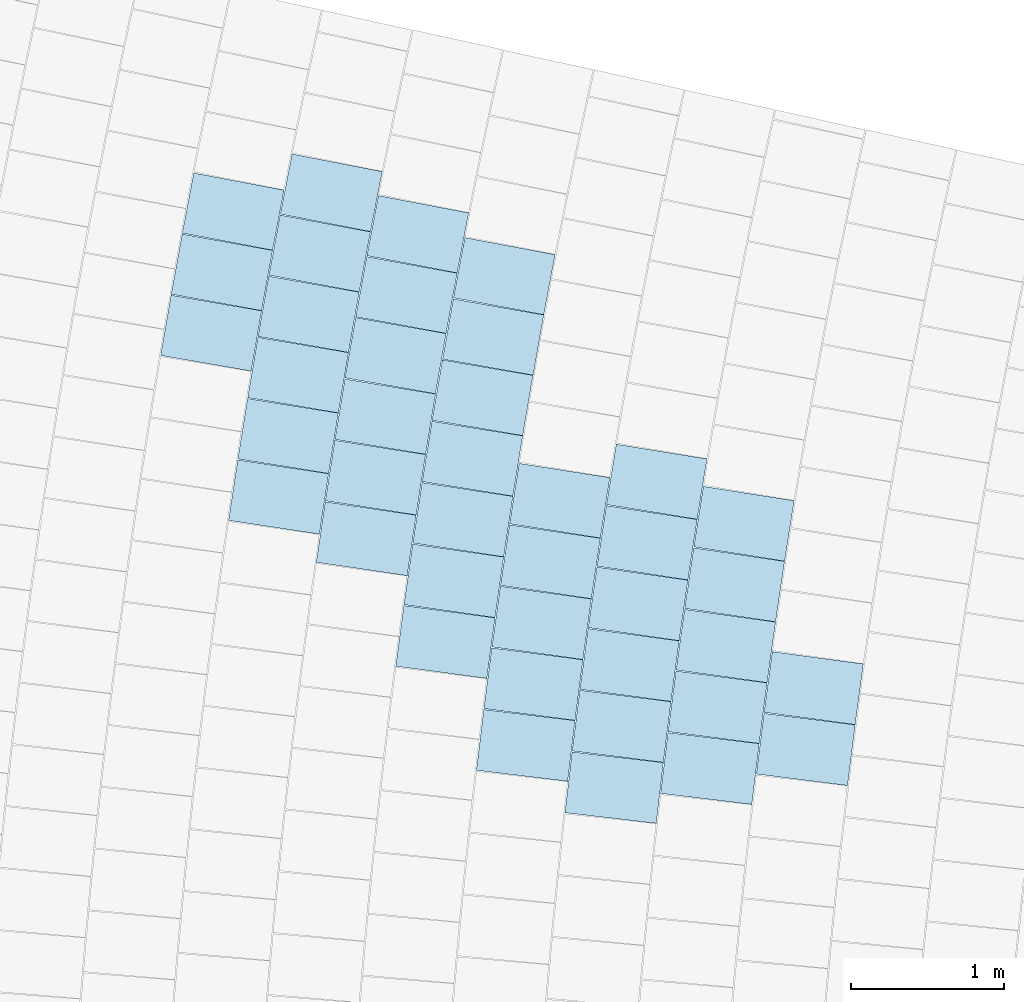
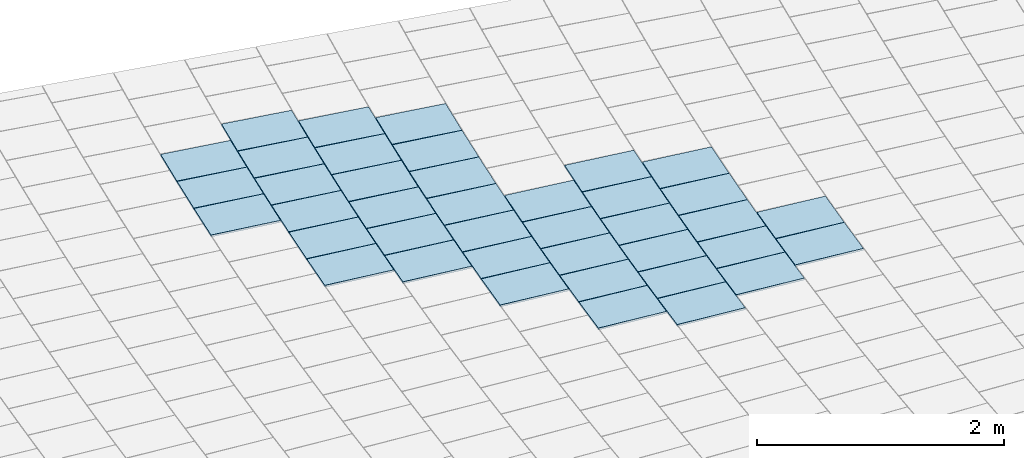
# One storey, part 91 of 438: 40 slabs.
"""IFC2X3 building model written with IfcOpenShell, lengths in millimetres."""

from ifc_helpers import new_model, entity, si_unit, converted_unit, derived_unit, direction, frame, frame_2d, origin, place, context, subcontext, project, spatial, polyline, rectangle, outline, extrude, material, layer, layer_set, layer_usage, type_object, element, save


model = new_model("IFC2X3")

# Units and contexts
model_context = context("Model", 3, precision=0.01, world=origin(), true_north=direction((6.123031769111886e-17, 1.0)))
body_context = subcontext(model_context, "Body", "Model", "MODEL_VIEW")
ifc_project = project(units=[si_unit("LENGTHUNIT", "METRE", prefix="MILLI"), si_unit("AREAUNIT", "SQUARE_METRE"), si_unit("VOLUMEUNIT", "CUBIC_METRE"), converted_unit("PLANEANGLEUNIT", "DEGREE", entity("IfcRatioMeasure", 0.017453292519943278), si_unit("PLANEANGLEUNIT", "RADIAN"), dimensions=[0, 0, 0, 0, 0, 0, 0]), si_unit("MASSUNIT", "GRAM", prefix="KILO"), derived_unit("MASSDENSITYUNIT", [(si_unit("MASSUNIT", "GRAM", prefix="KILO"), 1), (si_unit("LENGTHUNIT", "METRE"), -3)]), derived_unit("MOMENTOFINERTIAUNIT", [(si_unit("LENGTHUNIT", "METRE"), 4)]), si_unit("TIMEUNIT", "SECOND"), si_unit("FREQUENCYUNIT", "HERTZ"), si_unit("THERMODYNAMICTEMPERATUREUNIT", "DEGREE_CELSIUS"), derived_unit("THERMALTRANSMITTANCEUNIT", [(si_unit("MASSUNIT", "GRAM", prefix="KILO"), 1), (si_unit("THERMODYNAMICTEMPERATUREUNIT", "KELVIN"), -1), (si_unit("TIMEUNIT", "SECOND"), -3)]), derived_unit("THERMALCONDUCTANCEUNIT", [(si_unit("MASSUNIT", "GRAM", prefix="KILO"), 1), (si_unit("LENGTHUNIT", "METRE"), 1), (si_unit("THERMODYNAMICTEMPERATUREUNIT", "KELVIN"), -1), (si_unit("TIMEUNIT", "SECOND"), -3)]), derived_unit("VOLUMETRICFLOWRATEUNIT", [(si_unit("LENGTHUNIT", "METRE"), 3), (si_unit("TIMEUNIT", "SECOND"), -1)]), derived_unit("MASSFLOWRATEUNIT", [(si_unit("MASSUNIT", "GRAM", prefix="KILO"), 1), (si_unit("TIMEUNIT", "SECOND"), -1)]), derived_unit("ROTATIONALFREQUENCYUNIT", [(si_unit("TIMEUNIT", "SECOND"), -1)]), si_unit("ELECTRICCURRENTUNIT", "AMPERE"), si_unit("ELECTRICVOLTAGEUNIT", "VOLT"), si_unit("POWERUNIT", "WATT"), converted_unit("FORCEUNIT", "KIP", entity("IfcRatioMeasure", 2.088543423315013e-05), si_unit("FORCEUNIT", "NEWTON"), dimensions=[1, 1, -2, 0, 0, 0, 0]), si_unit("ILLUMINANCEUNIT", "LUX"), si_unit("LUMINOUSFLUXUNIT", "LUMEN"), si_unit("LUMINOUSINTENSITYUNIT", "CANDELA"), derived_unit("USERDEFINED", [(si_unit("MASSUNIT", "GRAM", prefix="KILO"), -1), (si_unit("LENGTHUNIT", "METRE"), -2), (si_unit("TIMEUNIT", "SECOND"), 3), (si_unit("LUMINOUSFLUXUNIT", "LUMEN"), 1)]), derived_unit("USERDEFINED", [(si_unit("MASSUNIT", "GRAM", prefix="KILO"), 1), (si_unit("LENGTHUNIT", "METRE"), 3), (si_unit("TIMEUNIT", "SECOND"), -3), (si_unit("ELECTRICCURRENTUNIT", "AMPERE"), -2)]), derived_unit("USERDEFINED", [(si_unit("LENGTHUNIT", "METRE"), 2), (si_unit("TIMEUNIT", "SECOND"), -2)]), derived_unit("SOUNDPOWERUNIT", [(si_unit("MASSUNIT", "GRAM", prefix="KILO"), 1), (si_unit("LENGTHUNIT", "METRE"), 2), (si_unit("TIMEUNIT", "SECOND"), -3)]), derived_unit("SOUNDPRESSUREUNIT", [(si_unit("MASSUNIT", "GRAM", prefix="KILO"), 1), (si_unit("LENGTHUNIT", "METRE"), -1), (si_unit("TIMEUNIT", "SECOND"), -2)]), derived_unit("LINEARVELOCITYUNIT", [(si_unit("LENGTHUNIT", "METRE"), 1), (si_unit("TIMEUNIT", "SECOND"), -1)]), si_unit("PRESSUREUNIT", "PASCAL"), derived_unit("USERDEFINED", [(si_unit("LENGTHUNIT", "METRE"), -2), (si_unit("MASSUNIT", "GRAM", prefix="KILO"), 1), (si_unit("TIMEUNIT", "SECOND"), -2)]), derived_unit("LINEARFORCEUNIT", [(si_unit("MASSUNIT", "GRAM", prefix="KILO"), 1), (si_unit("LENGTHUNIT", "METRE"), 1), (si_unit("TIMEUNIT", "SECOND"), -2), (si_unit("LENGTHUNIT", "METRE"), -1)]), derived_unit("PLANARFORCEUNIT", [(si_unit("MASSUNIT", "GRAM", prefix="KILO"), 1), (si_unit("LENGTHUNIT", "METRE"), 1), (si_unit("TIMEUNIT", "SECOND"), -2), (si_unit("LENGTHUNIT", "METRE"), -2)]), derived_unit("SPECIFICHEATCAPACITYUNIT", [(si_unit("LENGTHUNIT", "METRE"), 2), (si_unit("TIMEUNIT", "SECOND"), -2), (si_unit("THERMODYNAMICTEMPERATUREUNIT", "KELVIN"), -1)]), derived_unit("VAPORPERMEABILITYUNIT", [(si_unit("TIMEUNIT", "SECOND"), 1), (si_unit("LENGTHUNIT", "METRE"), -1)]), derived_unit("DYNAMICVISCOSITYUNIT", [(si_unit("MASSUNIT", "GRAM", prefix="KILO"), 1), (si_unit("LENGTHUNIT", "METRE"), -1), (si_unit("TIMEUNIT", "SECOND"), -1)]), derived_unit("THERMALEXPANSIONCOEFFICIENTUNIT", [(si_unit("THERMODYNAMICTEMPERATUREUNIT", "KELVIN"), -1)])], contexts=[model_context])

# Site, building, storey
site_placement = place(None, frame((0.0, 0.0, 0.0), z_axis=(0.0, 0.0, 1.0), x_axis=(0.8191520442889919, 0.5735764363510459, 0.0)))
site = spatial("IfcSite", under=ifc_project, at=site_placement, Name="Default", CompositionType="ELEMENT")
building_placement = place(site_placement, origin())
building = spatial("IfcBuilding", under=site, at=building_placement, CompositionType="ELEMENT")
storey_placement = place(building_placement, origin())
storey = spatial("IfcBuildingStorey", under=building, at=storey_placement, Name="PLAN", CompositionType="ELEMENT", Elevation=0.0)

# Slabs
ifc_material = material(Name="Paint-01")
ifc_layer = layer(ifc_material, 20.00000000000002)
ifc_layer_set = layer_set([ifc_layer], Name="Floor:Slab-179:1000")
ifc_layer_usage = layer_usage(ifc_layer_set, "AXIS3", "POSITIVE", 0.0)
slab_type = type_object("IfcSlabType", Name="Floor:Slab-179:1000", PredefinedType="FLOOR", material=ifc_layer_set)
slab_1_placement = place(storey_placement, origin())
element("IfcSlab", 1, at=slab_1_placement, inside=storey, type_object=slab_type, material=ifc_layer_usage, Name="Floor:Slab-179:1000", ObjectType="Floor:Slab-179:1000", PredefinedType="FLOOR", context=body_context, shape_type="SweptSolid", body=[
    extrude(outline(polyline([(-300.0, -200.00000294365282), (299.99999762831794, -200.0000029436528), (300.0, 200.00000294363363), (-299.9999976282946, 200.00000294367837), (-300.0, -200.00000294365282)])), frame((-73016.58268910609, -38084.738255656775, 520.0), z_axis=(0.0, 0.0, -1.0), x_axis=(0.7383574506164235, -0.6744095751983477, 0.0)), (0.0, 0.0, 1.0), 20.000000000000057),
])
slab_2_placement = place(storey_placement, origin())
element("IfcSlab", 2, at=slab_2_placement, inside=storey, type_object=slab_type, material=ifc_layer_usage, Name="Floor:Slab-179:1000", ObjectType="Floor:Slab-179:1000", PredefinedType="FLOOR", context=body_context, shape_type="SweptSolid", body=[
    extrude(outline(polyline([(-300.0, -200.0000029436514), (299.9999976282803, -200.00000294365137), (300.0, 200.00000294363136), (-299.999997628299, 200.0000029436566), (-300.0, -200.0000029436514)])), frame((-72703.48812320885, -38639.70648354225, 520.0), z_axis=(0.0, 0.0, -1.0), x_axis=(0.7414166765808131, -0.6710449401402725, 0.0)), (0.0, 0.0, 1.0), 20.000000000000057),
])
slab_3_placement = place(storey_placement, origin())
element("IfcSlab", 3, at=slab_3_placement, inside=storey, type_object=slab_type, material=ifc_layer_usage, Name="Floor:Slab-179:1000", ObjectType="Floor:Slab-179:1000", PredefinedType="FLOOR", context=body_context, shape_type="SweptSolid", body=[
    extrude(outline(polyline([(-300.0, -200.0000029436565), (299.99999762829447, -200.00000294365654), (300.0, 200.0000029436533), (-299.9999976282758, 200.00000294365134), (-300.0, -200.0000029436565)])), frame((-73600.6023051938, -37827.74210964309, 520.0), z_axis=(0.0, 0.0, -1.0), x_axis=(0.7414166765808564, -0.6710449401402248, 0.0)), (0.0, 0.0, 1.0), 19.99999999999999),
])
slab_4_placement = place(storey_placement, origin())
element("IfcSlab", 4, at=slab_4_placement, inside=storey, type_object=slab_type, material=ifc_layer_usage, Name="Floor:Slab-179:1000", ObjectType="Floor:Slab-179:1000", PredefinedType="FLOOR", context=body_context, shape_type="SweptSolid", body=[
    extrude(outline(polyline([(-300.0, -200.00000294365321), (299.9999976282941, -200.0000029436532), (300.0, 200.00000294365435), (-299.9999976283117, 200.000002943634), (-300.0, -200.00000294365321)])), frame((-73913.73045690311, -37272.7926009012, 520.0), z_axis=(0.0, 0.0, -1.0), x_axis=(0.738439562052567, -0.6743196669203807, 0.0)), (0.0, 0.0, 1.0), 20.000000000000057),
])
slab_5_placement = place(storey_placement, origin())
element("IfcSlab", 5, at=slab_5_placement, inside=storey, type_object=slab_type, material=ifc_layer_usage, Name="Floor:Slab-179:1000", ObjectType="Floor:Slab-179:1000", PredefinedType="FLOOR", context=body_context, shape_type="SweptSolid", body=[
    extrude(outline(polyline([(-299.99999762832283, -200.00000294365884), (300.0, -200.00000294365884), (299.9999976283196, 200.0000029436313), (-300.0, 200.00000294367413), (-299.99999762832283, -200.00000294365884)])), frame((-73136.8631934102, -34719.86054049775, 520.0), z_axis=(0.0, 0.0, -1.0), x_axis=(0.7026712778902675, -0.7115146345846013, 0.0)), (0.0, 0.0, 1.0), 19.999999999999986),
])
slab_6_placement = place(storey_placement, origin())
element("IfcSlab", 6, at=slab_6_placement, inside=storey, type_object=slab_type, material=ifc_layer_usage, Name="Floor:Slab-179:1000", ObjectType="Floor:Slab-179:1000", PredefinedType="FLOOR", context=body_context, shape_type="SweptSolid", body=[
    extrude(outline(polyline([(-299.99999762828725, -200.0000029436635), (300.0, -200.0000029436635), (299.99999762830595, 200.00000294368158), (-300.0, 200.0000029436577), (-299.99999762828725, -200.0000029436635)])), frame((-72849.20321938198, -34438.21468676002, 520.0), z_axis=(0.0, 0.0, -1.0), x_axis=(0.6965115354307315, -0.7175455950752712, 0.0)), (0.0, 0.0, 1.0), 19.999999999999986),
])
slab_7_placement = place(storey_placement, origin())
element("IfcSlab", 7, at=slab_7_placement, inside=storey, type_object=slab_type, material=ifc_layer_usage, Name="Floor:Slab-179:1000", ObjectType="Floor:Slab-179:1000", PredefinedType="FLOOR", context=body_context, shape_type="SweptSolid", body=[
    extrude(outline(polyline([(-299.99999762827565, -200.00000294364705), (300.0, -200.00000294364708), (299.99999762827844, 200.00000294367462), (-300.0, 200.00000294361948), (-299.99999762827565, -200.00000294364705)])), frame((-73704.84606985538, -35290.53908222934, 520.0), z_axis=(0.0, 0.0, -1.0), x_axis=(0.7148336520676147, -0.6992945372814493, 0.0)), (0.0, 0.0, 1.0), 20.000000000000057),
])
slab_8_placement = place(storey_placement, origin())
element("IfcSlab", 8, at=slab_8_placement, inside=storey, type_object=slab_type, material=ifc_layer_usage, Name="Floor:Slab-179:1000", ObjectType="Floor:Slab-179:1000", PredefinedType="FLOOR", context=body_context, shape_type="SweptSolid", body=[
    extrude(outline(polyline([(-299.99999762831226, -200.00000294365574), (300.0, -200.0000029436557), (299.9999976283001, 200.00000294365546), (-300.0, 200.0000029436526), (-299.99999762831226, -200.00000294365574)])), frame((-73985.1267626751, -35579.52936029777, 520.0), z_axis=(0.0, 0.0, -1.0), x_axis=(0.7208353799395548, -0.6931063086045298, 0.0)), (0.0, 0.0, 1.0), 20.000000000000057),
])
slab_9_placement = place(storey_placement, origin())
element("IfcSlab", 9, at=slab_9_placement, inside=storey, type_object=slab_type, material=ifc_layer_usage, Name="Floor:Slab-179:1000", ObjectType="Floor:Slab-179:1000", PredefinedType="FLOOR", context=body_context, shape_type="SweptSolid", body=[
    extrude(outline(polyline([(-299.9999976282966, -200.00000294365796), (300.0, -200.00000294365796), (299.99999762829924, 200.00000294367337), (-300.0, 200.00000294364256), (-299.9999976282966, -200.00000294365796)])), frame((-74262.90579172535, -35870.92506823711, 520.0), z_axis=(0.0, 0.0, -1.0), x_axis=(0.7267835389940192, -0.6868665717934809, 0.0)), (0.0, 0.0, 1.0), 20.000000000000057),
])
slab_10_placement = place(storey_placement, origin())
element("IfcSlab", 10, at=slab_10_placement, inside=storey, type_object=slab_type, material=ifc_layer_usage, Name="Floor:Slab-179:1000", ObjectType="Floor:Slab-179:1000", PredefinedType="FLOOR", context=body_context, shape_type="SweptSolid", body=[
    extrude(rectangle(XDim=599.9983160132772, YDim=399.99888497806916, at=frame_2d((-7.673861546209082e-12, -1.5347723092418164e-12), x_axis=(1.0, 0.0))), frame((-73421.91714138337, -35003.13871020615, 520.0), z_axis=(0.0, 0.0, -1.0), x_axis=(0.7071067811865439, -0.7071067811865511, 0.0)), (0.0, 0.0, 1.0), 20.000000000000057),
])
slab_11_placement = place(storey_placement, origin())
element("IfcSlab", 11, at=slab_11_placement, inside=storey, type_object=slab_type, material=ifc_layer_usage, Name="Floor:Slab-179:1000", ObjectType="Floor:Slab-179:1000", PredefinedType="FLOOR", context=body_context, shape_type="SweptSolid", body=[
    extrude(outline(polyline([(-299.99999762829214, -200.00000294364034), (300.0, -200.00000294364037), (299.99999762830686, 200.00000294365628), (-300.0, 200.00000294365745), (-299.99999762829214, -200.00000294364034)])), frame((-72431.82677698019, -38342.32410182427, 520.0), z_axis=(0.0, 0.0, -1.0), x_axis=(0.7351966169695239, -0.6778539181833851, 0.0)), (0.0, 0.0, 1.0), 19.999999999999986),
])
slab_12_placement = place(storey_placement, origin())
element("IfcSlab", 12, at=slab_12_placement, inside=storey, type_object=slab_type, material=ifc_layer_usage, Name="Floor:Slab-179:1000", ObjectType="Floor:Slab-179:1000", PredefinedType="FLOOR", context=body_context, shape_type="SweptSolid", body=[
    extrude(outline(polyline([(-299.9999976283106, -200.00000294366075), (300.0, -200.00000294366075), (299.99999762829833, 200.00000294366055), (-300.0, 200.00000294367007), (-299.9999976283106, -200.00000294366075)])), frame((-72189.7082570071, -37203.89755558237, 520.0), z_axis=(0.0, 0.0, -1.0), x_axis=(0.7196836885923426, -0.6943020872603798, 0.0)), (0.0, 0.0, 1.0), 20.000000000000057),
])
slab_13_placement = place(storey_placement, origin())
element("IfcSlab", 13, at=slab_13_placement, inside=storey, type_object=slab_type, material=ifc_layer_usage, Name="Floor:Slab-179:1000", ObjectType="Floor:Slab-179:1000", PredefinedType="FLOOR", context=body_context, shape_type="SweptSolid", body=[
    extrude(outline(polyline([(-299.9999976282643, -200.00000294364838), (300.0, -200.00000294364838), (299.9999976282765, 200.00000294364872), (-300.0, 200.00000294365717), (-299.9999976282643, -200.00000294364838)])), frame((-72467.99971370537, -37495.000236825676, 520.0), z_axis=(0.0, 0.0, -1.0), x_axis=(0.7259685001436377, -0.6877279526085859, 0.0)), (0.0, 0.0, 1.0), 19.999999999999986),
])
slab_14_placement = place(storey_placement, origin())
element("IfcSlab", 14, at=slab_14_placement, inside=storey, type_object=slab_type, material=ifc_layer_usage, Name="Floor:Slab-179:1000", ObjectType="Floor:Slab-179:1000", PredefinedType="FLOOR", context=body_context, shape_type="SweptSolid", body=[
    extrude(outline(polyline([(-299.9999976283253, -200.00000294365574), (300.0, -200.00000294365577), (299.99999762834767, 200.00000294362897), (-300.0, 200.00000294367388), (-299.9999976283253, -200.00000294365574)])), frame((-72743.63212378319, -37788.62189885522, 520.0), z_axis=(0.0, 0.0, -1.0), x_axis=(0.732193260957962, -0.6810969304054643, 0.0)), (0.0, 0.0, 1.0), 20.000000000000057),
])
slab_15_placement = place(storey_placement, origin())
element("IfcSlab", 15, at=slab_15_placement, inside=storey, type_object=slab_type, material=ifc_layer_usage, Name="Floor:Slab-179:1000", ObjectType="Floor:Slab-179:1000", PredefinedType="FLOOR", context=body_context, shape_type="SweptSolid", body=[
    extrude(outline(polyline([(-300.0, -200.00000294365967), (299.9999976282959, -200.00000294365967), (300.0, 200.0000029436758), (-299.9999976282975, 200.00000294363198), (-300.0, -200.00000294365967)])), frame((-73286.82882839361, -38383.32480943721, 520.0), z_axis=(0.0, 0.0, -1.0), x_axis=(0.7444605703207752, -0.6676664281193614, 0.0)), (0.0, 0.0, 1.0), 20.000000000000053),
])
slab_16_placement = place(storey_placement, origin())
element("IfcSlab", 16, at=slab_16_placement, inside=storey, type_object=slab_type, material=ifc_layer_usage, Name="Floor:Slab-179:1000", ObjectType="Floor:Slab-179:1000", PredefinedType="FLOOR", context=body_context, shape_type="SweptSolid", body=[
    extrude(outline(polyline([(-299.9999976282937, -200.00000294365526), (300.0, -200.00000294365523), (299.999997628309, 200.00000294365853), (-300.0, 200.00000294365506), (-299.9999976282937, -200.00000294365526)])), frame((-72498.51906184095, -36653.15012615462, 520.0), z_axis=(0.0, 0.0, -1.0), x_axis=(0.7168631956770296, -0.697213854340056, 0.0)), (0.0, 0.0, 1.0), 20.000000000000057),
])
slab_17_placement = place(storey_placement, origin())
element("IfcSlab", 17, at=slab_17_placement, inside=storey, type_object=slab_type, material=ifc_layer_usage, Name="Floor:Slab-179:1000", ObjectType="Floor:Slab-179:1000", PredefinedType="FLOOR", context=body_context, shape_type="SweptSolid", body=[
    extrude(outline(polyline([(-299.9999976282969, -200.00000294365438), (300.0, -200.0000029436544), (299.9999976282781, 200.00000294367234), (-300.0, 200.0000029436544), (-299.9999976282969, -200.00000294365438)])), frame((-72777.98058729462, -36943.07844865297, 520.0), z_axis=(0.0, 0.0, -1.0), x_axis=(0.7230893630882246, -0.6907544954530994, 0.0)), (0.0, 0.0, 1.0), 19.999999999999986),
])
slab_18_placement = place(storey_placement, origin())
element("IfcSlab", 18, at=slab_18_placement, inside=storey, type_object=slab_type, material=ifc_layer_usage, Name="Floor:Slab-179:1000", ObjectType="Floor:Slab-179:1000", PredefinedType="FLOOR", context=body_context, shape_type="SweptSolid", body=[
    extrude(outline(polyline([(-299.9999976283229, -200.00000294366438), (300.0, -200.00000294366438), (299.9999976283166, 200.00000294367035), (-300.0, 200.00000294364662), (-299.9999976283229, -200.00000294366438)])), frame((-73054.82978950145, -37235.502277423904, 520.0), z_axis=(0.0, 0.0, -1.0), x_axis=(0.7292573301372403, -0.6842395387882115, 0.0)), (0.0, 0.0, 1.0), 19.999999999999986),
])
slab_19_placement = place(storey_placement, origin())
element("IfcSlab", 19, at=slab_19_placement, inside=storey, type_object=slab_type, material=ifc_layer_usage, Name="Floor:Slab-179:1000", ObjectType="Floor:Slab-179:1000", PredefinedType="FLOOR", context=body_context, shape_type="SweptSolid", body=[
    extrude(outline(polyline([(-299.9999976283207, -200.00000294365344), (300.0, -200.00000294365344), (299.9999976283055, 200.00000294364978), (-300.0, 200.00000294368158), (-299.9999976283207, -200.00000294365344)])), frame((-73329.04438529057, -37530.39807571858, 520.0), z_axis=(0.0, 0.0, -1.0), x_axis=(0.7353666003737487, -0.6776695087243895, 0.0)), (0.0, 0.0, 1.0), 20.000000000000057),
])
slab_20_placement = place(storey_placement, origin())
element("IfcSlab", 20, at=slab_20_placement, inside=storey, type_object=slab_type, material=ifc_layer_usage, Name="Floor:Slab-179:1000", ObjectType="Floor:Slab-179:1000", PredefinedType="FLOOR", context=body_context, shape_type="SweptSolid", body=[
    extrude(outline(polyline([(-300.0, -200.00000294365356), (299.99999762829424, -200.00000294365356), (300.0, 200.00000294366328), (-299.99999762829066, 200.0000029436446), (-300.0, -200.00000294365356)])), frame((-73869.48168861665, -38127.51044280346, 520.0), z_axis=(0.0, 0.0, -1.0), x_axis=(0.7474070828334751, -0.6643663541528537, 0.0)), (0.0, 0.0, 1.0), 20.000000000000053),
])
slab_21_placement = place(storey_placement, origin())
element("IfcSlab", 21, at=slab_21_placement, inside=storey, type_object=slab_type, material=ifc_layer_usage, Name="Floor:Slab-179:1000", ObjectType="Floor:Slab-179:1000", PredefinedType="FLOOR", context=body_context, shape_type="SweptSolid", body=[
    extrude(outline(polyline([(-299.99999762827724, -200.0000029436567), (300.0, -200.00000294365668), (299.9999976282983, 200.00000294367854), (-300.0, 200.00000294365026), (-299.99999762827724, -200.0000029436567)])), frame((-73087.43340055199, -36391.707380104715, 520.0), z_axis=(0.0, 0.0, -1.0), x_axis=(0.720275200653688, -0.6936884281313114, 0.0)), (0.0, 0.0, 1.0), 20.000000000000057),
])
slab_22_placement = place(storey_placement, origin())
element("IfcSlab", 22, at=slab_22_placement, inside=storey, type_object=slab_type, material=ifc_layer_usage, Name="Floor:Slab-179:1000", ObjectType="Floor:Slab-179:1000", PredefinedType="FLOOR", context=body_context, shape_type="SweptSolid", body=[
    extrude(outline(polyline([(-299.99999762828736, -200.0000029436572), (300.0, -200.00000294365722), (299.9999976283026, 200.00000294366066), (-300.0, 200.00000294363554), (-299.99999762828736, -200.0000029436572)])), frame((-73365.46181903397, -36682.960608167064, 520.0), z_axis=(0.0, 0.0, -1.0), x_axis=(0.7263870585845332, -0.6872858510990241, 0.0)), (0.0, 0.0, 1.0), 20.000000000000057),
])
slab_23_placement = place(storey_placement, origin())
element("IfcSlab", 23, at=slab_23_placement, inside=storey, type_object=slab_type, material=ifc_layer_usage, Name="Floor:Slab-179:1000", ObjectType="Floor:Slab-179:1000", PredefinedType="FLOOR", context=body_context, shape_type="SweptSolid", body=[
    extrude(outline(polyline([(-299.99999762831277, -200.0000029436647), (300.0, -200.00000294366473), (299.9999976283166, 200.0000029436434), (-300.0, 200.00000294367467), (-299.99999762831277, -200.0000029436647)])), frame((-73640.90136395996, -36976.663351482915, 520.0), z_axis=(0.0, 0.0, -1.0), x_axis=(0.732442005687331, -0.6808294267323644, 0.0)), (0.0, 0.0, 1.0), 20.000000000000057),
])
slab_24_placement = place(storey_placement, origin())
element("IfcSlab", 24, at=slab_24_placement, inside=storey, type_object=slab_type, material=ifc_layer_usage, Name="Floor:Slab-179:1000", ObjectType="Floor:Slab-179:1000", PredefinedType="FLOOR", context=body_context, shape_type="SweptSolid", body=[
    extrude(outline(polyline([(-300.0, -200.0000029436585), (299.99999762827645, -200.00000294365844), (300.0, 200.0000029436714), (-299.99999762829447, 200.00000294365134), (-300.0, -200.0000029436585)])), frame((-74183.92771897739, -37571.325151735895, 520.0), z_axis=(0.0, 0.0, -1.0), x_axis=(0.7443792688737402, -0.6677570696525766, 0.0)), (0.0, 0.0, 1.0), 20.000000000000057),
])
slab_25_placement = place(storey_placement, origin())
element("IfcSlab", 25, at=slab_25_placement, inside=storey, type_object=slab_type, material=ifc_layer_usage, Name="Floor:Slab-179:1000", ObjectType="Floor:Slab-179:1000", PredefinedType="FLOOR", context=body_context, shape_type="SweptSolid", body=[
    extrude(outline(polyline([(-299.99999762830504, -200.00000294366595), (300.0, -200.000002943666), (299.9999976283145, 200.00000294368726), (-300.0, 200.00000294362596), (-299.99999762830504, -200.00000294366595)])), frame((-72543.81257704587, -34985.324651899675, 520.0), z_axis=(0.0, 0.0, -1.0), x_axis=(0.699028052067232, -0.7150942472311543, 0.0)), (0.0, 0.0, 1.0), 20.000000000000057),
])
slab_26_placement = place(storey_placement, origin())
element("IfcSlab", 26, at=slab_26_placement, inside=storey, type_object=slab_type, material=ifc_layer_usage, Name="Floor:Slab-179:1000", ObjectType="Floor:Slab-179:1000", PredefinedType="FLOOR", context=body_context, shape_type="SweptSolid", body=[
    extrude(rectangle(XDim=599.9979282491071, YDim=399.9986264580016, at=frame_2d((1.5347723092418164e-12, 1.5347723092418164e-12), x_axis=(1.0, 0.0))), frame((-72830.67518680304, -35268.94810591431, 520.0), z_axis=(0.0, 0.0, -1.0), x_axis=(0.7071067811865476, -0.7071067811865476, 0.0)), (0.0, 0.0, 1.0), 19.99999999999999),
])
slab_27_placement = place(storey_placement, origin())
element("IfcSlab", 27, at=slab_27_placement, inside=storey, type_object=slab_type, material=ifc_layer_usage, Name="Floor:Slab-179:1000", ObjectType="Floor:Slab-179:1000", PredefinedType="FLOOR", context=body_context, shape_type="SweptSolid", body=[
    extrude(outline(polyline([(-299.9999976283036, -200.00000294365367), (300.0, -200.0000029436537), (299.9999976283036, 200.00000294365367), (-300.0, 200.0000029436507), (-299.9999976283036, -200.00000294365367)])), frame((-73396.3812901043, -35840.867223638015, 520.0), z_axis=(0.0, 0.0, -1.0), x_axis=(0.7175239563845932, -0.6965338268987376, 0.0)), (0.0, 0.0, 1.0), 19.999999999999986),
])
slab_28_placement = place(storey_placement, origin())
element("IfcSlab", 28, at=slab_28_placement, inside=storey, type_object=slab_type, material=ifc_layer_usage, Name="Floor:Slab-179:1000", ObjectType="Floor:Slab-179:1000", PredefinedType="FLOOR", context=body_context, shape_type="SweptSolid", body=[
    extrude(outline(polyline([(-299.99999762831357, -200.0000029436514), (300.0, -200.00000294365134), (299.9999976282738, 200.00000294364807), (-300.0, 200.00000294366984), (-299.99999762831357, -200.0000029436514)])), frame((-73114.68628303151, -35553.20770082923, 520.0), z_axis=(0.0, 0.0, -1.0), x_axis=(0.7114127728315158, -0.7027744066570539, 0.0)), (0.0, 0.0, 1.0), 20.000000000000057),
])
slab_29_placement = place(storey_placement, origin())
element("IfcSlab", 29, at=slab_29_placement, inside=storey, type_object=slab_type, material=ifc_layer_usage, Name="Floor:Slab-179:1000", ObjectType="Floor:Slab-179:1000", PredefinedType="FLOOR", context=body_context, shape_type="SweptSolid", body=[
    extrude(outline(polyline([(-299.9999976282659, -200.0000029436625), (300.0, -200.00000294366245), (299.99999762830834, 200.0000029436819), (-300.0, 200.00000294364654), (-299.9999976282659, -200.0000029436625)])), frame((-73675.55301506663, -36130.976213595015, 520.0), z_axis=(0.0, 0.0, -1.0), x_axis=(0.7235803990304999, -0.6902401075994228, 0.0)), (0.0, 0.0, 1.0), 19.999999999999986),
])
slab_30_placement = place(storey_placement, origin())
element("IfcSlab", 30, at=slab_30_placement, inside=storey, type_object=slab_type, material=ifc_layer_usage, Name="Floor:Slab-179:1000", ObjectType="Floor:Slab-179:1000", PredefinedType="FLOOR", context=body_context, shape_type="SweptSolid", body=[
    extrude(outline(polyline([(-299.99999762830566, -200.00000294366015), (300.0, -200.00000294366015), (299.9999976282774, 200.0000029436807), (-300.0, 200.0000029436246), (-299.99999762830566, -200.00000294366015)])), frame((-73952.18015951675, -36423.51253787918, 520.0), z_axis=(0.0, 0.0, -1.0), x_axis=(0.7295816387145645, -0.6838937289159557, 0.0)), (0.0, 0.0, 1.0), 20.000000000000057),
])
slab_31_placement = place(storey_placement, origin())
element("IfcSlab", 31, at=slab_31_placement, inside=storey, type_object=slab_type, material=ifc_layer_usage, Name="Floor:Slab-179:1000", ObjectType="Floor:Slab-179:1000", PredefinedType="FLOOR", context=body_context, shape_type="SweptSolid", body=[
    extrude(outline(polyline([(-299.9999976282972, -200.00000294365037), (300.0, -200.0000029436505), (299.9999976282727, 200.0000029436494), (-300.0, 200.00000294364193), (-299.9999976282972, -200.00000294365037)])), frame((-74226.24161918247, -36718.45387848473, 520.0), z_axis=(0.0, 0.0, -1.0), x_axis=(0.7355272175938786, -0.6774951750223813, 0.0)), (0.0, 0.0, 1.0), 20.000000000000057),
])
slab_32_placement = place(storey_placement, origin())
element("IfcSlab", 32, at=slab_32_placement, inside=storey, type_object=slab_type, material=ifc_layer_usage, Name="Floor:Slab-179:1000", ObjectType="Floor:Slab-179:1000", PredefinedType="FLOOR", context=body_context, shape_type="SweptSolid", body=[
    extrude(outline(polyline([(-300.0, -200.00000294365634), (299.99999762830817, -200.00000294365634), (300.0, 200.00000294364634), (-299.999997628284, 200.0000029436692), (-300.0, -200.00000294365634)])), frame((-74574.88154914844, -35320.74956984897, 520.0), z_axis=(0.0, 0.0, -1.0), x_axis=(0.7240834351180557, -0.6897123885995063, 0.0)), (0.0, 0.0, 1.0), 20.000000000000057),
])
slab_33_placement = place(storey_placement, origin())
element("IfcSlab", 33, at=slab_33_placement, inside=storey, type_object=slab_type, material=ifc_layer_usage, Name="Floor:Slab-179:1000", ObjectType="Floor:Slab-179:1000", PredefinedType="FLOOR", context=body_context, shape_type="SweptSolid", body=[
    extrude(outline(polyline([(-300.0, -200.0000029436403), (299.9999976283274, -200.0000029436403), (300.0, 200.00000294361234), (-299.99999762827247, 200.00000294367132), (-300.0, -200.0000029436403)])), frame((-74014.65954020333, -34742.54263116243, 520.0), z_axis=(0.0, 0.0, -1.0), x_axis=(0.7122406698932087, -0.701935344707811, 0.0)), (0.0, 0.0, 1.0), 19.999999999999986),
])
slab_34_placement = place(storey_placement, origin())
element("IfcSlab", 34, at=slab_34_placement, inside=storey, type_object=slab_type, material=ifc_layer_usage, Name="Floor:Slab-179:1000", ObjectType="Floor:Slab-179:1000", PredefinedType="FLOOR", context=body_context, shape_type="SweptSolid", body=[
    extrude(outline(polyline([(-300.0, -200.00000294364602), (299.999997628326, -200.00000294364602), (300.0, 200.00000294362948), (-299.99999762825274, 200.0000029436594), (-300.0, -200.00000294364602)])), frame((-74296.0006413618, -35030.454265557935, 520.0), z_axis=(0.0, 0.0, -1.0), x_axis=(0.7181880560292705, -0.6958490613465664, 0.0)), (0.0, 0.0, 1.0), 20.000000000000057),
])
slab_35_placement = place(storey_placement, origin())
element("IfcSlab", 35, at=slab_35_placement, inside=storey, type_object=slab_type, material=ifc_layer_usage, Name="Floor:Slab-179:1000", ObjectType="Floor:Slab-179:1000", PredefinedType="FLOOR", context=body_context, shape_type="SweptSolid", body=[
    extrude(rectangle(XDim=599.9995489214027, YDim=399.99970691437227, at=frame_2d((1.5347723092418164e-12, -4.590106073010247e-12), x_axis=(1.0, 0.0))), frame((-73731.31089066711, -34457.1219708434, 520.0), z_axis=(0.0, 0.0, -1.0), x_axis=(0.7071067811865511, -0.7071067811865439, 0.0)), (0.0, 0.0, 1.0), 20.000000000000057),
])
slab_36_placement = place(storey_placement, origin())
element("IfcSlab", 36, at=slab_36_placement, inside=storey, type_object=slab_type, material=ifc_layer_usage, Name="Floor:Slab-179:1000", ObjectType="Floor:Slab-179:1000", PredefinedType="FLOOR", context=body_context, shape_type="SweptSolid", body=[
    extrude(outline(polyline([(-300.0, -200.0000029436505), (299.99999762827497, -200.00000294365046), (300.0, 200.00000294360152), (-299.99999762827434, 200.0000029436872), (-300.0, -200.0000029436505)])), frame((-73156.07968943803, -33893.31736428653, 520.0), z_axis=(0.0, 0.0, -1.0), x_axis=(0.69409079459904, -0.7198874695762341, 0.0)), (0.0, 0.0, 1.0), 20.000000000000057),
])
slab_37_placement = place(storey_placement, origin())
element("IfcSlab", 37, at=slab_37_placement, inside=storey, type_object=slab_type, material=ifc_layer_usage, Name="Floor:Slab-179:1000", ObjectType="Floor:Slab-179:1000", PredefinedType="FLOOR", context=body_context, shape_type="SweptSolid", body=[
    extrude(outline(polyline([(-300.0, -200.0000029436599), (299.99999762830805, -200.00000294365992), (300.0, 200.00000294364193), (-299.99999762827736, 200.00000294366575), (-300.0, -200.0000029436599)])), frame((-73444.67842686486, -34173.953593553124, 520.0), z_axis=(0.0, 0.0, -1.0), x_axis=(0.7001916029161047, -0.7139549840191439, 0.0)), (0.0, 0.0, 1.0), 19.999999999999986),
])
slab_38_placement = place(storey_placement, origin())
element("IfcSlab", 38, at=slab_38_placement, inside=storey, type_object=slab_type, material=ifc_layer_usage, Name="Floor:Slab-179:1000", ObjectType="Floor:Slab-179:1000", PredefinedType="FLOOR", context=body_context, shape_type="SweptSolid", body=[
    extrude(outline(polyline([(-300.0, -200.0000029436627), (299.99999762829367, -200.0000029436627), (300.0, 200.00000294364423), (-299.9999976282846, 200.00000294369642), (-300.0, -200.0000029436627)])), frame((-74322.24872131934, -34193.20205473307, 520.0), z_axis=(0.0, 0.0, -1.0), x_axis=(0.7096667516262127, -0.7045375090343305, 0.0)), (0.0, 0.0, 1.0), 20.000000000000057),
])
slab_39_placement = place(storey_placement, origin())
element("IfcSlab", 39, at=slab_39_placement, inside=storey, type_object=slab_type, material=ifc_layer_usage, Name="Floor:Slab-179:1000", ObjectType="Floor:Slab-179:1000", PredefinedType="FLOOR", context=body_context, shape_type="SweptSolid", body=[
    extrude(outline(polyline([(-300.0, -200.00000294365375), (299.999997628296, -200.00000294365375), (300.0, 200.00000294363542), (-299.9999976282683, 200.00000294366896), (-300.0, -200.00000294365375)])), frame((-74037.46298643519, -33908.74297722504, 520.0), z_axis=(0.0, 0.0, -1.0), x_axis=(0.703722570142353, -0.710474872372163, 0.0)), (0.0, 0.0, 1.0), 20.000000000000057),
])
slab_40_placement = place(storey_placement, origin())
element("IfcSlab", 40, at=slab_40_placement, inside=storey, type_object=slab_type, material=ifc_layer_usage, Name="Floor:Slab-179:1000", ObjectType="Floor:Slab-179:1000", PredefinedType="FLOOR", context=body_context, shape_type="SweptSolid", body=[
    extrude(outline(polyline([(-300.0, -200.00000294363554), (299.99999762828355, -200.00000294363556), (300.0, 200.00000294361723), (-299.99999762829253, 200.00000294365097), (-300.0, -200.00000294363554)])), frame((-73750.29743423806, -33626.68655166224, 520.0), z_axis=(0.0, 0.0, -1.0), x_axis=(0.6977287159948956, -0.7163620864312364, 0.0)), (0.0, 0.0, 1.0), 19.99999999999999),
])

save(model, "model.ifc")
